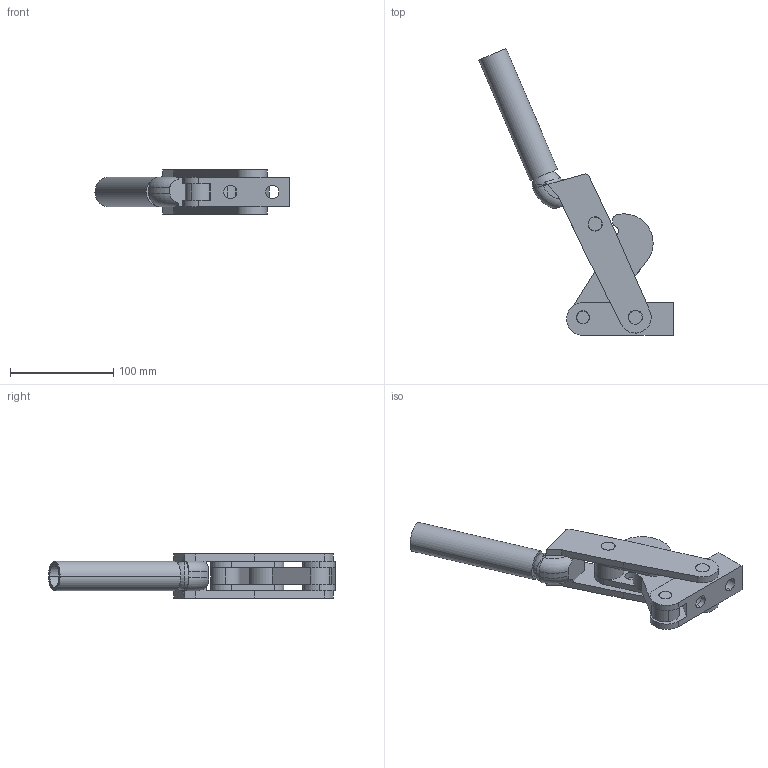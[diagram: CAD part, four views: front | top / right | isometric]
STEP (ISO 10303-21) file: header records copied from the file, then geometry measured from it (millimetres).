
FILE_DESCRIPTION( ( '' ), '1' );
FILE_NAME( 'C:\Documents and Settings\Richard Grenzke\My Documents\Wolverine Company Data\WOLVERINE CD 5_17_05\SOLIDS STEP\heavy_duty_compact\lyt997.stp', ' ', ( '' ), ( '' ), 'ACIS Interop R16', 'Kubotek KeyCreator V5.5.1 (0454)', ' ' );
FILE_SCHEMA( ( 'CONFIG_CONTROL_DESIGN' ) );
Length unit declared in the file: inch
Products named in the file (11): 1; 2; 3; 4; 5; 6; 7; 8; 9; 10; 11
Bounding box: 187.9 x 277.72 x 42.67 mm (x, y, z)
Volume: 295873.6 mm3; surface area: 101139.1 mm2
Topology: 10 solids, 10 shells, 142 faces, 382 edges, 261 vertices
Faces by surface type: cylinder 77, plane 55, cone 4, torus 4, sphere 2
Entity records: 5175 total; most frequent: DIRECTION 880, CARTESIAN_POINT 850, ORIENTED_EDGE 764, EDGE_CURVE 382, AXIS2_PLACEMENT_3D 353, VERTEX_POINT 261, CIRCLE 199, EDGE_LOOP 179
